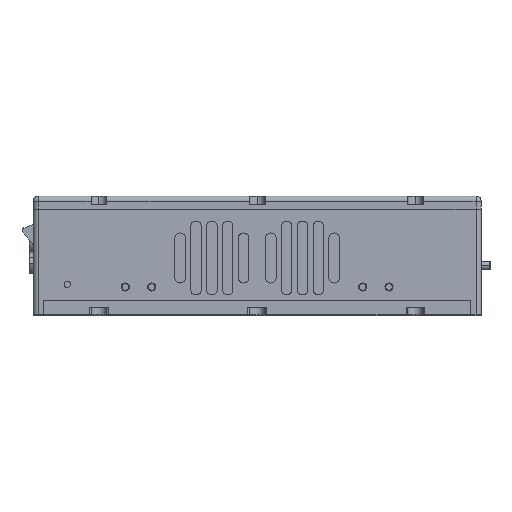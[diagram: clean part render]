
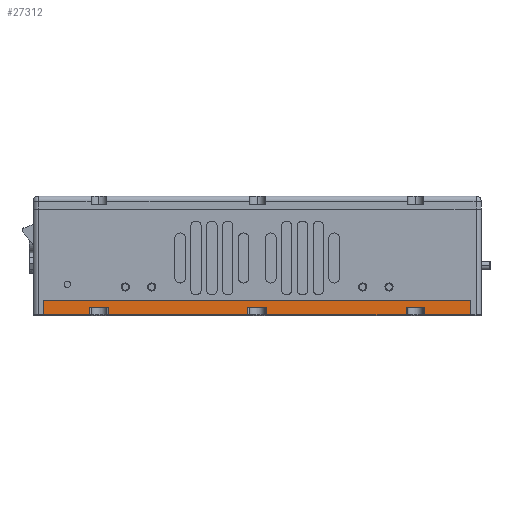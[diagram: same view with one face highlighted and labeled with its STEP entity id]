
A CAD part, left-side view. The second image highlights one B-rep face of the part: STEP entity #27312.
In plain terms, the highlighted planar face has unit normal (-1, 0, 0).
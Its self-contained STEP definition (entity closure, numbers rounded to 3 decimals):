
#1272 = VERTEX_POINT ( 'NONE', #89267 ) ;
#1744 = CARTESIAN_POINT ( 'NONE',  ( -144.658, 12.7, 201.4 ) ) ;
#2271 = VECTOR ( 'NONE', #10331, 1000. ) ;
#2682 = LINE ( 'NONE', #12478, #85541 ) ;
#2734 = LINE ( 'NONE', #62585, #15236 ) ;
#2925 = EDGE_CURVE ( 'NONE', #84715, #72104, #4049, .T. ) ;
#3820 = DIRECTION ( 'NONE',  ( 0., 0., -1. ) ) ;
#4049 = LINE ( 'NONE', #39624, #88128 ) ;
#4101 = DIRECTION ( 'NONE',  ( 0., -1., 0. ) ) ;
#5870 = DIRECTION ( 'NONE',  ( 0., 1., 0. ) ) ;
#6219 = EDGE_CURVE ( 'NONE', #38710, #26985, #79850, .T. ) ;
#6807 = VECTOR ( 'NONE', #36885, 1000. ) ;
#7010 = CARTESIAN_POINT ( 'NONE',  ( -144.658, 90.2, 201.4 ) ) ;
#8841 = LINE ( 'NONE', #57382, #83786 ) ;
#9443 = VECTOR ( 'NONE', #92529, 1000. ) ;
#10215 = EDGE_CURVE ( 'NONE', #73542, #26985, #8841, .T. ) ;
#10331 = DIRECTION ( 'NONE',  ( 0., 0., -1. ) ) ;
#10469 = AXIS2_PLACEMENT_3D ( 'NONE', #36646, #28715, #57558 ) ;
#10990 = DIRECTION ( 'NONE',  ( 0., 0., 1. ) ) ;
#11627 = CARTESIAN_POINT ( 'NONE',  ( -144.658, -54.3, 201.4 ) ) ;
#12478 = CARTESIAN_POINT ( 'NONE',  ( -144.658, 90.2, 198.5 ) ) ;
#13169 = CARTESIAN_POINT ( 'NONE',  ( -144.658, 90.2, 201.4 ) ) ;
#13218 = CARTESIAN_POINT ( 'NONE',  ( -144.658, 90.2, 198.5 ) ) ;
#13687 = VECTOR ( 'NONE', #35993, 1000. ) ;
#13764 = CARTESIAN_POINT ( 'NONE',  ( -144.658, 90.2, 204. ) ) ;
#14217 = DIRECTION ( 'NONE',  ( 0., -1., 0. ) ) ;
#15236 = VECTOR ( 'NONE', #3820, 1000. ) ;
#16154 = EDGE_CURVE ( 'NONE', #71080, #45305, #70196, .T. ) ;
#16501 = ORIENTED_EDGE ( 'NONE', *, *, #71127, .F. ) ;
#19416 = CARTESIAN_POINT ( 'NONE',  ( -144.658, 90.2, 204. ) ) ;
#20068 = CARTESIAN_POINT ( 'NONE',  ( -144.658, 5.7, 201.4 ) ) ;
#21720 = CARTESIAN_POINT ( 'NONE',  ( -144.658, 90.2, 204. ) ) ;
#22759 = ORIENTED_EDGE ( 'NONE', *, *, #72929, .T. ) ;
#23134 = CARTESIAN_POINT ( 'NONE',  ( -144.658, -71.8, 198.5 ) ) ;
#23870 = LINE ( 'NONE', #52210, #87339 ) ;
#26250 = CARTESIAN_POINT ( 'NONE',  ( -144.658, 5.7, 204. ) ) ;
#26985 = VERTEX_POINT ( 'NONE', #1744 ) ;
#27312 = ADVANCED_FACE ( 'NONE', ( #75215 ), #93388, .F. ) ;
#27944 = ORIENTED_EDGE ( 'NONE', *, *, #45353, .T. ) ;
#28715 = DIRECTION ( 'NONE',  ( 1., 0., 0. ) ) ;
#29995 = LINE ( 'NONE', #78276, #42431 ) ;
#31311 = ORIENTED_EDGE ( 'NONE', *, *, #50699, .F. ) ;
#34109 = LINE ( 'NONE', #87301, #6807 ) ;
#34833 = VERTEX_POINT ( 'NONE', #13218 ) ;
#35993 = DIRECTION ( 'NONE',  ( 0., 0., -1. ) ) ;
#36570 = LINE ( 'NONE', #82404, #76221 ) ;
#36646 = CARTESIAN_POINT ( 'NONE',  ( -144.658, 90.2, 204. ) ) ;
#36885 = DIRECTION ( 'NONE',  ( 0., 1., 0. ) ) ;
#37042 = VECTOR ( 'NONE', #14217, 1000. ) ;
#38110 = EDGE_CURVE ( 'NONE', #38710, #1272, #40941, .T. ) ;
#38343 = VERTEX_POINT ( 'NONE', #49643 ) ;
#38710 = VERTEX_POINT ( 'NONE', #20068 ) ;
#39123 = CARTESIAN_POINT ( 'NONE',  ( -144.658, 12.7, 198.5 ) ) ;
#39214 = EDGE_CURVE ( 'NONE', #42053, #74914, #23870, .T. ) ;
#39624 = CARTESIAN_POINT ( 'NONE',  ( -144.658, -47.3, 204. ) ) ;
#40941 = LINE ( 'NONE', #26250, #2271 ) ;
#41698 = ORIENTED_EDGE ( 'NONE', *, *, #38110, .T. ) ;
#42053 = VERTEX_POINT ( 'NONE', #48619 ) ;
#42431 = VECTOR ( 'NONE', #56410, 1000. ) ;
#43463 = CARTESIAN_POINT ( 'NONE',  ( -144.658, -47.3, 198.5 ) ) ;
#45305 = VERTEX_POINT ( 'NONE', #55050 ) ;
#45353 = EDGE_CURVE ( 'NONE', #1272, #84715, #2682, .T. ) ;
#46200 = VERTEX_POINT ( 'NONE', #13764 ) ;
#48165 = VECTOR ( 'NONE', #5870, 1000. ) ;
#48619 = CARTESIAN_POINT ( 'NONE',  ( -144.658, 65.7, 201.4 ) ) ;
#49643 = CARTESIAN_POINT ( 'NONE',  ( -144.658, -54.3, 198.5 ) ) ;
#50180 = ORIENTED_EDGE ( 'NONE', *, *, #2925, .T. ) ;
#50589 = VERTEX_POINT ( 'NONE', #11627 ) ;
#50699 = EDGE_CURVE ( 'NONE', #50589, #72104, #61742, .T. ) ;
#52210 = CARTESIAN_POINT ( 'NONE',  ( -144.658, 65.7, 204. ) ) ;
#53580 = CARTESIAN_POINT ( 'NONE',  ( -144.658, 72.7, 204. ) ) ;
#54547 = DIRECTION ( 'NONE',  ( 0., -1., 0. ) ) ;
#55050 = CARTESIAN_POINT ( 'NONE',  ( -144.658, 72.7, 201.4 ) ) ;
#55579 = CARTESIAN_POINT ( 'NONE',  ( -144.658, 72.7, 198.5 ) ) ;
#56190 = ORIENTED_EDGE ( 'NONE', *, *, #39214, .T. ) ;
#56410 = DIRECTION ( 'NONE',  ( 0., 0., -1. ) ) ;
#57382 = CARTESIAN_POINT ( 'NONE',  ( -144.658, 12.7, 204. ) ) ;
#57437 = ORIENTED_EDGE ( 'NONE', *, *, #87975, .T. ) ;
#57558 = DIRECTION ( 'NONE',  ( 0., 1., 0. ) ) ;
#57852 = DIRECTION ( 'NONE',  ( 0., 1., 0. ) ) ;
#59295 = ORIENTED_EDGE ( 'NONE', *, *, #83780, .T. ) ;
#61536 = ORIENTED_EDGE ( 'NONE', *, *, #81330, .F. ) ;
#61742 = LINE ( 'NONE', #13169, #48165 ) ;
#62585 = CARTESIAN_POINT ( 'NONE',  ( -144.658, -71.8, 204. ) ) ;
#64714 = CARTESIAN_POINT ( 'NONE',  ( -144.658, 90.2, 198.5 ) ) ;
#68057 = CARTESIAN_POINT ( 'NONE',  ( -144.658, 65.7, 198.5 ) ) ;
#68180 = LINE ( 'NONE', #21720, #13687 ) ;
#68522 = VECTOR ( 'NONE', #57852, 1000. ) ;
#68759 = CARTESIAN_POINT ( 'NONE',  ( -144.658, -71.8, 204. ) ) ;
#69453 = EDGE_CURVE ( 'NONE', #50589, #38343, #29995, .T. ) ;
#70196 = LINE ( 'NONE', #53580, #80354 ) ;
#70371 = CARTESIAN_POINT ( 'NONE',  ( -144.658, 90.2, 198.5 ) ) ;
#71080 = VERTEX_POINT ( 'NONE', #55579 ) ;
#71082 = ORIENTED_EDGE ( 'NONE', *, *, #75354, .F. ) ;
#71127 = EDGE_CURVE ( 'NONE', #46200, #82776, #77377, .T. ) ;
#71165 = CARTESIAN_POINT ( 'NONE',  ( -144.658, -47.3, 201.4 ) ) ;
#71178 = DIRECTION ( 'NONE',  ( 0., -1., 0. ) ) ;
#71591 = ORIENTED_EDGE ( 'NONE', *, *, #74419, .T. ) ;
#71672 = DIRECTION ( 'NONE',  ( 0., 0., 1. ) ) ;
#72104 = VERTEX_POINT ( 'NONE', #71165 ) ;
#72929 = EDGE_CURVE ( 'NONE', #38343, #82681, #86645, .T. ) ;
#73542 = VERTEX_POINT ( 'NONE', #39123 ) ;
#74419 = EDGE_CURVE ( 'NONE', #34833, #71080, #36570, .T. ) ;
#74914 = VERTEX_POINT ( 'NONE', #68057 ) ;
#75215 = FACE_OUTER_BOUND ( 'NONE', #89971, .T. ) ;
#75354 = EDGE_CURVE ( 'NONE', #42053, #45305, #34109, .T. ) ;
#76221 = VECTOR ( 'NONE', #54547, 1000. ) ;
#77377 = LINE ( 'NONE', #19416, #86479 ) ;
#78276 = CARTESIAN_POINT ( 'NONE',  ( -144.658, -54.3, 204. ) ) ;
#78726 = ORIENTED_EDGE ( 'NONE', *, *, #16154, .T. ) ;
#79850 = LINE ( 'NONE', #7010, #68522 ) ;
#80354 = VECTOR ( 'NONE', #84286, 1000. ) ;
#81317 = DIRECTION ( 'NONE',  ( 0., 0., -1. ) ) ;
#81330 = EDGE_CURVE ( 'NONE', #82776, #82681, #2734, .T. ) ;
#82404 = CARTESIAN_POINT ( 'NONE',  ( -144.658, 90.2, 198.5 ) ) ;
#82681 = VERTEX_POINT ( 'NONE', #23134 ) ;
#82776 = VERTEX_POINT ( 'NONE', #68759 ) ;
#83780 = EDGE_CURVE ( 'NONE', #74914, #73542, #89242, .T. ) ;
#83786 = VECTOR ( 'NONE', #71672, 1000. ) ;
#84286 = DIRECTION ( 'NONE',  ( 0., 0., 1. ) ) ;
#84715 = VERTEX_POINT ( 'NONE', #43463 ) ;
#84779 = ORIENTED_EDGE ( 'NONE', *, *, #6219, .F. ) ;
#85541 = VECTOR ( 'NONE', #71178, 1000. ) ;
#86321 = ORIENTED_EDGE ( 'NONE', *, *, #10215, .T. ) ;
#86479 = VECTOR ( 'NONE', #4101, 1000. ) ;
#86645 = LINE ( 'NONE', #70371, #9443 ) ;
#87301 = CARTESIAN_POINT ( 'NONE',  ( -144.658, 90.2, 201.4 ) ) ;
#87339 = VECTOR ( 'NONE', #81317, 1000. ) ;
#87975 = EDGE_CURVE ( 'NONE', #46200, #34833, #68180, .T. ) ;
#88128 = VECTOR ( 'NONE', #10990, 1000. ) ;
#89242 = LINE ( 'NONE', #64714, #37042 ) ;
#89267 = CARTESIAN_POINT ( 'NONE',  ( -144.658, 5.7, 198.5 ) ) ;
#89971 = EDGE_LOOP ( 'NONE', ( #71591, #78726, #71082, #56190, #59295, #86321, #84779, #41698, #27944, #50180, #31311, #92676, #22759, #61536, #16501, #57437 ) ) ;
#92529 = DIRECTION ( 'NONE',  ( 0., -1., 0. ) ) ;
#92676 = ORIENTED_EDGE ( 'NONE', *, *, #69453, .T. ) ;
#93388 = PLANE ( 'NONE',  #10469 ) ;
